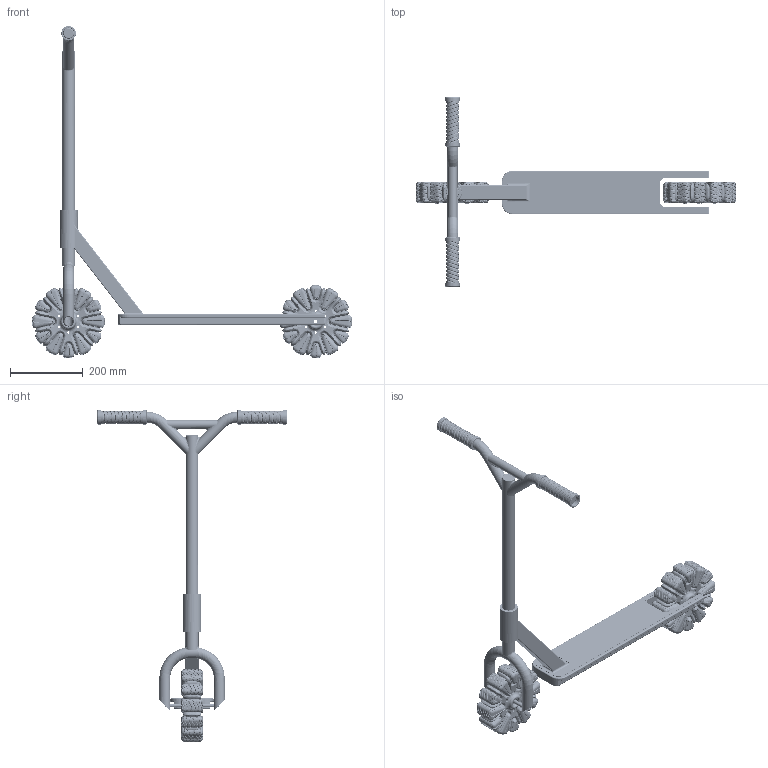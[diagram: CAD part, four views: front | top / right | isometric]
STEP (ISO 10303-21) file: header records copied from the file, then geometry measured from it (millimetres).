
FILE_DESCRIPTION(/* description */ (''),/* implementation_level */ '2;1');
FILE_NAME(/* name */ '/Users/moritzscheffer/Desktop/1 UNIVERSITY/1.2 Semester 2/1.2.4 Tire Design/Scooter with Tires v2.step',/* time_stamp */ '2022-07-20T12:15:14+02:00',/* author */ (''),/* organization */ (''),/* preprocessor_version */ 'ST-DEVELOPER v19',/* originating_system */ 'Autodesk Translation Framework v11.7.0.108',/* authorisation */ '');
FILE_SCHEMA (('AUTOMOTIVE_DESIGN { 1 0 10303 214 3 1 1 }'));
Products named in the file (1): Scooter with Tires
Bounding box: 879.99 x 520 x 912.84 mm (x, y, z)
Volume: 6183680.6 mm3; surface area: 1184053.1 mm2
Topology: 17 solids, 17 shells, 5235 faces, 16014 edges, 10615 vertices
Faces by surface type: bspline 2791, cylinder 1162, plane 757, torus 281, sphere 244
Full cylindrical faces by diameter (mm): 6 x24, 10 x13, 10.2 x48, 22 x4, 23 x2, 25 x1, 30 x12, 35 x2, 36 x22, 40 x4, 50 x1
Entity records: 415950 total; most frequent: CARTESIAN_POINT 294642, ORIENTED_EDGE 32204, EDGE_CURVE 16102, DIRECTION 15837, VERTEX_POINT 10759, B_SPLINE_CURVE_WITH_KNOTS 9661, AXIS2_PLACEMENT_3D 6955, EDGE_LOOP 5421
